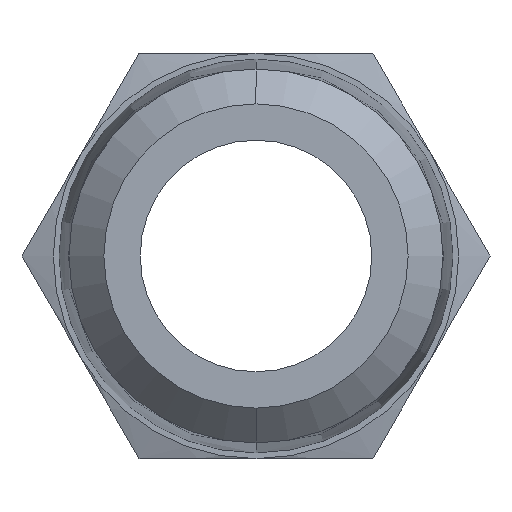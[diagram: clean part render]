
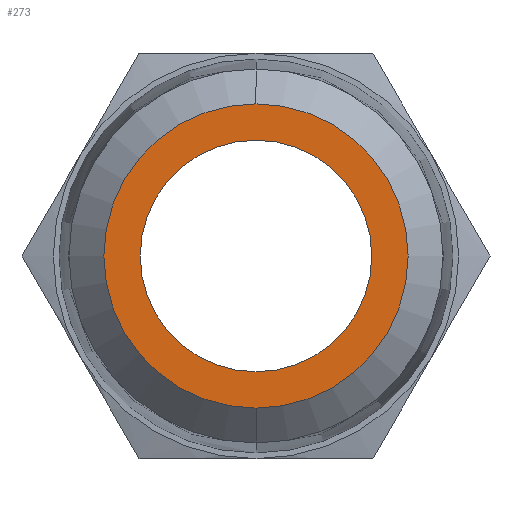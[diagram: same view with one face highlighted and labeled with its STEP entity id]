
A CAD part, left-side view. The second image highlights one B-rep face of the part: STEP entity #273.
In plain terms, the highlighted planar face has unit normal (-1, 0, 0).
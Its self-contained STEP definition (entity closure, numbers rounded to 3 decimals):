
#28 = EDGE_CURVE ( 'NONE', #29, #30, #590, .T. ) ;
#29 = VERTEX_POINT ( 'NONE', #581 ) ;
#30 = VERTEX_POINT ( 'NONE', #580 ) ;
#41 = EDGE_CURVE ( 'NONE', #42, #43, #408, .T. ) ;
#42 = VERTEX_POINT ( 'NONE', #403 ) ;
#43 = VERTEX_POINT ( 'NONE', #402 ) ;
#273 = ADVANCED_FACE ( 'NONE', ( #855, #850 ), #849, .T. ) ;
#274 = EDGE_LOOP ( 'NONE', ( #275, #277 ) ) ;
#275 = ORIENTED_EDGE ( 'NONE', *, *, #276, .T. ) ;
#276 = EDGE_CURVE ( 'NONE', #30, #29, #847, .T. ) ;
#277 = ORIENTED_EDGE ( 'NONE', *, *, #28, .T. ) ;
#278 = EDGE_LOOP ( 'NONE', ( #279, #280 ) ) ;
#279 = ORIENTED_EDGE ( 'NONE', *, *, #41, .F. ) ;
#280 = ORIENTED_EDGE ( 'NONE', *, *, #295, .F. ) ;
#295 = EDGE_CURVE ( 'NONE', #43, #42, #1156, .T. ) ;
#402 = CARTESIAN_POINT ( 'NONE',  ( -19., 0., 6.35 ) ) ;
#403 = CARTESIAN_POINT ( 'NONE',  ( -19., 0., -6.35 ) ) ;
#404 = DIRECTION ( 'NONE',  ( 0., 0., 1. ) ) ;
#405 = DIRECTION ( 'NONE',  ( -1., 0., 0. ) ) ;
#406 = CARTESIAN_POINT ( 'NONE',  ( -19., 0., 0. ) ) ;
#407 = AXIS2_PLACEMENT_3D ( 'NONE', #406, #405, #404 ) ;
#408 = CIRCLE ( 'NONE', #407, 6.35 ) ;
#580 = CARTESIAN_POINT ( 'NONE',  ( -19., 0., -8.344 ) ) ;
#581 = CARTESIAN_POINT ( 'NONE',  ( -19., 0., 8.344 ) ) ;
#582 = DIRECTION ( 'NONE',  ( 0., 0., 1. ) ) ;
#583 = DIRECTION ( 'NONE',  ( -1., 0., 0. ) ) ;
#584 = CARTESIAN_POINT ( 'NONE',  ( -19., 0., 0. ) ) ;
#585 = AXIS2_PLACEMENT_3D ( 'NONE', #584, #583, #582 ) ;
#590 = CIRCLE ( 'NONE', #585, 8.344 ) ;
#840 = DIRECTION ( 'NONE',  ( 0., 0., 1. ) ) ;
#841 = DIRECTION ( 'NONE',  ( -1., 0., 0. ) ) ;
#842 = CARTESIAN_POINT ( 'NONE',  ( -19., 0., 0. ) ) ;
#843 = AXIS2_PLACEMENT_3D ( 'NONE', #842, #841, #840 ) ;
#844 = DIRECTION ( 'NONE',  ( 0., 0., 1. ) ) ;
#845 = DIRECTION ( 'NONE',  ( -1., 0., 0. ) ) ;
#846 = AXIS2_PLACEMENT_3D ( 'NONE', #848, #845, #844 ) ;
#847 = CIRCLE ( 'NONE', #843, 8.344 ) ;
#848 = CARTESIAN_POINT ( 'NONE',  ( -19., 0., 0. ) ) ;
#849 = PLANE ( 'NONE',  #846 ) ;
#850 = FACE_BOUND ( 'NONE', #278, .T. ) ;
#855 = FACE_OUTER_BOUND ( 'NONE', #274, .T. ) ;
#1148 = DIRECTION ( 'NONE',  ( 0., 0., 1. ) ) ;
#1149 = DIRECTION ( 'NONE',  ( -1., 0., 0. ) ) ;
#1150 = CARTESIAN_POINT ( 'NONE',  ( -19., 0., 0. ) ) ;
#1151 = AXIS2_PLACEMENT_3D ( 'NONE', #1150, #1149, #1148 ) ;
#1156 = CIRCLE ( 'NONE', #1151, 6.35 ) ;
